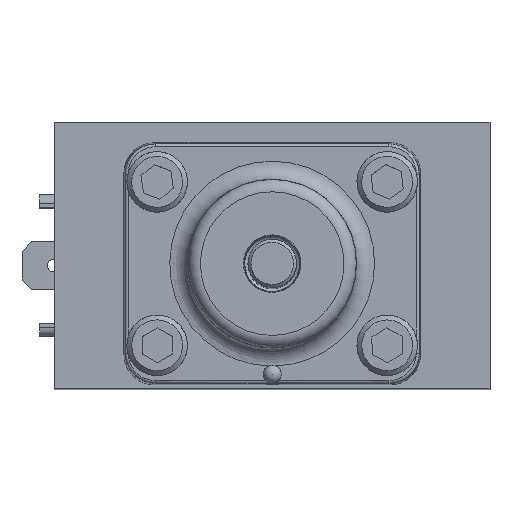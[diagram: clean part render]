
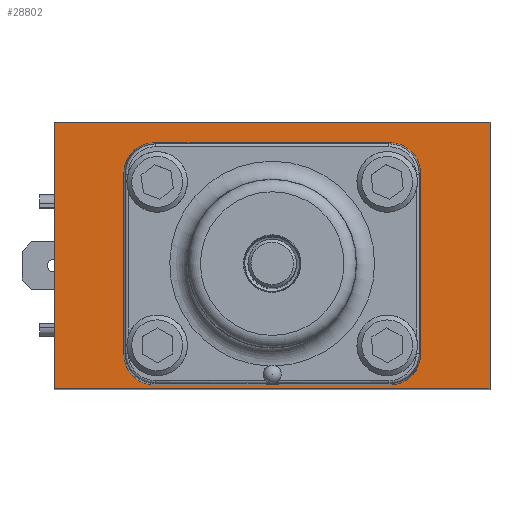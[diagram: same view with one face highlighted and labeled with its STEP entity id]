
A CAD part, top view. The second image highlights one B-rep face of the part: STEP entity #28802.
In plain terms, the highlighted planar face has unit normal (0, 0, 1).
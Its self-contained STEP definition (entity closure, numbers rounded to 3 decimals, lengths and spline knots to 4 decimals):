
#1187=FACE_BOUND('',#4727,.T.);
#1751=PLANE('',#31210);
#2977=FACE_OUTER_BOUND('',#4726,.T.);
#4726=EDGE_LOOP('',(#22964,#22965,#22966,#22967));
#4727=EDGE_LOOP('',(#22968,#22969,#22970,#22971,#22972,#22973,#22974,#22975));
#5629=CIRCLE('',#29849,0.4064);
#5631=CIRCLE('',#29853,0.4064);
#5633=CIRCLE('',#29857,0.4064);
#5635=CIRCLE('',#29861,0.4064);
#7152=LINE('',#42556,#9226);
#7158=LINE('',#42571,#9232);
#7162=LINE('',#42583,#9236);
#7166=LINE('',#42595,#9240);
#7882=LINE('',#46011,#9956);
#7894=LINE('',#46054,#9968);
#7941=LINE('',#46521,#10015);
#8182=LINE('',#47936,#10256);
#9226=VECTOR('',#33501,1.);
#9232=VECTOR('',#33515,1.);
#9236=VECTOR('',#33527,1.);
#9240=VECTOR('',#33539,1.);
#9956=VECTOR('',#36425,1.);
#9968=VECTOR('',#36473,1.);
#10015=VECTOR('',#36712,1.);
#10256=VECTOR('',#37099,1.);
#11398=VERTEX_POINT('',#42554);
#11399=VERTEX_POINT('',#42555);
#11402=VERTEX_POINT('',#42564);
#11404=VERTEX_POINT('',#42570);
#11406=VERTEX_POINT('',#42576);
#11408=VERTEX_POINT('',#42582);
#11410=VERTEX_POINT('',#42588);
#11412=VERTEX_POINT('',#42594);
#12291=VERTEX_POINT('',#46007);
#12293=VERTEX_POINT('',#46010);
#12304=VERTEX_POINT('',#46050);
#12306=VERTEX_POINT('',#46053);
#14199=EDGE_CURVE('',#11398,#11399,#7152,.T.);
#14204=EDGE_CURVE('',#11402,#11398,#5629,.T.);
#14207=EDGE_CURVE('',#11404,#11402,#7158,.T.);
#14210=EDGE_CURVE('',#11406,#11404,#5631,.T.);
#14213=EDGE_CURVE('',#11408,#11406,#7162,.T.);
#14216=EDGE_CURVE('',#11410,#11408,#5633,.T.);
#14219=EDGE_CURVE('',#11412,#11410,#7166,.T.);
#14222=EDGE_CURVE('',#11399,#11412,#5635,.T.);
#15573=EDGE_CURVE('',#12293,#12291,#7882,.T.);
#15594=EDGE_CURVE('',#12306,#12304,#7894,.T.);
#15714=EDGE_CURVE('',#12304,#12293,#7941,.T.);
#16047=EDGE_CURVE('',#12291,#12306,#8182,.T.);
#22964=ORIENTED_EDGE('',*,*,#15573,.T.);
#22965=ORIENTED_EDGE('',*,*,#16047,.T.);
#22966=ORIENTED_EDGE('',*,*,#15594,.T.);
#22967=ORIENTED_EDGE('',*,*,#15714,.T.);
#22968=ORIENTED_EDGE('',*,*,#14222,.F.);
#22969=ORIENTED_EDGE('',*,*,#14199,.F.);
#22970=ORIENTED_EDGE('',*,*,#14204,.F.);
#22971=ORIENTED_EDGE('',*,*,#14207,.F.);
#22972=ORIENTED_EDGE('',*,*,#14210,.F.);
#22973=ORIENTED_EDGE('',*,*,#14213,.F.);
#22974=ORIENTED_EDGE('',*,*,#14216,.F.);
#22975=ORIENTED_EDGE('',*,*,#14219,.F.);
#28802=ADVANCED_FACE('',(#2977,#1187),#1751,.T.);
#29849=AXIS2_PLACEMENT_3D('',#42565,#33508,#33509);
#29853=AXIS2_PLACEMENT_3D('',#42577,#33520,#33521);
#29857=AXIS2_PLACEMENT_3D('',#42589,#33532,#33533);
#29861=AXIS2_PLACEMENT_3D('',#42600,#33544,#33545);
#31210=AXIS2_PLACEMENT_3D('',#48966,#37461,#37462);
#33501=DIRECTION('',(1.,0.,0.));
#33508=DIRECTION('center_axis',(0.,0.,
1.));
#33509=DIRECTION('ref_axis',(0.,1.,0.));
#33515=DIRECTION('',(0.,-1.,0.));
#33520=DIRECTION('center_axis',(0.,0.,
1.));
#33521=DIRECTION('ref_axis',(1.,0.,0.));
#33527=DIRECTION('',(-1.,0.,0.));
#33532=DIRECTION('center_axis',(0.,0.,
1.));
#33533=DIRECTION('ref_axis',(0.,-1.,0.));
#33539=DIRECTION('',(0.,1.,0.));
#33544=DIRECTION('center_axis',(0.,0.,
1.));
#33545=DIRECTION('ref_axis',(-1.,0.,0.));
#36425=DIRECTION('',(-1.,0.,0.));
#36473=DIRECTION('',(1.,0.,0.));
#36712=DIRECTION('',(0.,1.,0.));
#37099=DIRECTION('',(0.,-1.,0.));
#37461=DIRECTION('center_axis',(0.,0.,1.));
#37462=DIRECTION('ref_axis',(1.,0.,0.));
#42554=CARTESIAN_POINT('',(-1.538,-1.5875,4.7104));
#42555=CARTESIAN_POINT('',(1.538,-1.5875,4.7104));
#42556=CARTESIAN_POINT('',(-1.538,-1.5875,4.7104));
#42564=CARTESIAN_POINT('',(-1.9444,-1.1811,4.7104));
#42565=CARTESIAN_POINT('Origin',(-1.538,-1.1811,4.7104));
#42570=CARTESIAN_POINT('',(-1.9444,1.1811,4.7104));
#42571=CARTESIAN_POINT('',(-1.9444,1.1811,4.7104));
#42576=CARTESIAN_POINT('',(-1.538,1.5875,4.7104));
#42577=CARTESIAN_POINT('Origin',(-1.538,1.1811,4.7104));
#42582=CARTESIAN_POINT('',(1.538,1.5875,4.7104));
#42583=CARTESIAN_POINT('',(1.538,1.5875,4.7104));
#42588=CARTESIAN_POINT('',(1.9444,1.1811,4.7104));
#42589=CARTESIAN_POINT('Origin',(1.538,1.1811,4.7104));
#42594=CARTESIAN_POINT('',(1.9444,-1.1811,4.7104));
#42595=CARTESIAN_POINT('',(1.9444,-1.1811,4.7104));
#42600=CARTESIAN_POINT('Origin',(1.538,-1.1811,4.7104));
#46007=CARTESIAN_POINT('',(-2.8575,1.8567,4.7104));
#46010=CARTESIAN_POINT('',(2.8575,1.8567,4.7104));
#46011=CARTESIAN_POINT('',(2.8575,1.8567,4.7104));
#46050=CARTESIAN_POINT('',(2.8575,-1.6358,4.7104));
#46053=CARTESIAN_POINT('',(-2.8575,-1.6358,4.7104));
#46054=CARTESIAN_POINT('',(2.8575,-1.6358,4.7104));
#46521=CARTESIAN_POINT('',(2.8575,0.,4.7104));
#47936=CARTESIAN_POINT('',(-2.8575,0.,4.7104));
#48966=CARTESIAN_POINT('Origin',(2.8575,0.,4.7104));
